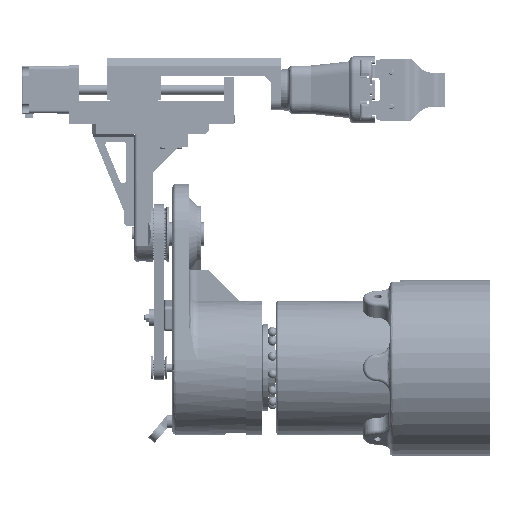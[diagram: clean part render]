
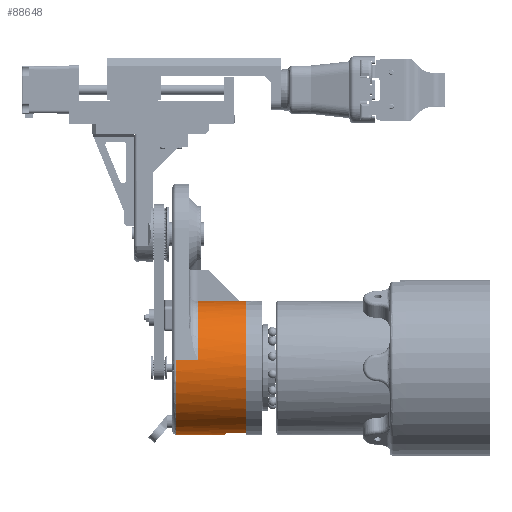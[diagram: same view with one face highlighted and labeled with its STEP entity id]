
A CAD part, left-side view. The second image highlights one B-rep face of the part: STEP entity #88648.
In plain terms, the highlighted cylindrical face has radius 40 mm (diameter 80 mm), a full revolution.
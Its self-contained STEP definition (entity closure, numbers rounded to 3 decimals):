
#1121=B_SPLINE_CURVE_WITH_KNOTS('',3,(#131976,#131977,#131978,#131979,#131980,
#131981,#131982,#131983,#131984,#131985),.UNSPECIFIED.,.F.,.F.,(4,2,2,2,
4),(-0.304,-0.228,-0.151,-0.075,
0.),.UNSPECIFIED.);
#1122=B_SPLINE_CURVE_WITH_KNOTS('',3,(#131989,#131990,#131991,#131992,#131993,
#131994,#131995,#131996,#131997,#131998),.UNSPECIFIED.,.F.,.F.,(4,2,2,2,
4),(0.608,0.683,0.758,0.835,
0.912),.UNSPECIFIED.);
#3991=CIRCLE('',#95145,40.);
#3992=CIRCLE('',#95146,40.);
#4001=CIRCLE('',#95160,40.);
#4002=CIRCLE('',#95161,40.);
#4003=CIRCLE('',#95162,40.);
#4004=CIRCLE('',#95163,40.);
#4005=CIRCLE('',#95164,40.);
#4006=CIRCLE('',#95165,40.);
#6431=CYLINDRICAL_SURFACE('',#95159,40.);
#8649=FACE_OUTER_BOUND('',#13763,.T.);
#13763=EDGE_LOOP('',(#62452,#62453,#62454,#62455,#62456,#62457,#62458,#62459,
#62460,#62461,#62462,#62463,#62464,#62465,#62466,#62467,#62468,#62469));
#20701=LINE('',#131946,#29180);
#20704=LINE('',#131959,#29183);
#20705=LINE('',#131963,#29184);
#20706=LINE('',#131967,#29185);
#20707=LINE('',#131970,#29186);
#20708=LINE('',#131974,#29187);
#20709=LINE('',#132000,#29188);
#29180=VECTOR('',#107400,10.);
#29183=VECTOR('',#107405,10.);
#29184=VECTOR('',#107408,10.);
#29185=VECTOR('',#107411,10.);
#29186=VECTOR('',#107414,40.);
#29187=VECTOR('',#107417,10.);
#29188=VECTOR('',#107420,10.);
#36942=VERTEX_POINT('',#131916);
#36943=VERTEX_POINT('',#131918);
#36944=VERTEX_POINT('',#131920);
#36952=VERTEX_POINT('',#131945);
#36955=VERTEX_POINT('',#131958);
#36956=VERTEX_POINT('',#131960);
#36957=VERTEX_POINT('',#131962);
#36958=VERTEX_POINT('',#131964);
#36959=VERTEX_POINT('',#131966);
#36960=VERTEX_POINT('',#131969);
#36961=VERTEX_POINT('',#131971);
#36962=VERTEX_POINT('',#131973);
#36963=VERTEX_POINT('',#131975);
#36964=VERTEX_POINT('',#131986);
#36965=VERTEX_POINT('',#131988);
#36966=VERTEX_POINT('',#131999);
#46408=EDGE_CURVE('',#36942,#36943,#3991,.T.);
#46409=EDGE_CURVE('',#36943,#36944,#3992,.T.);
#46422=EDGE_CURVE('',#36952,#36944,#20701,.T.);
#46426=EDGE_CURVE('',#36955,#36942,#20704,.T.);
#46427=EDGE_CURVE('',#36956,#36955,#4001,.T.);
#46428=EDGE_CURVE('',#36956,#36957,#20705,.T.);
#46429=EDGE_CURVE('',#36958,#36957,#4002,.T.);
#46430=EDGE_CURVE('',#36958,#36959,#20706,.T.);
#46431=EDGE_CURVE('',#36952,#36959,#4003,.T.);
#46432=EDGE_CURVE('',#36943,#36960,#20707,.T.);
#46433=EDGE_CURVE('',#36960,#36961,#4004,.T.);
#46434=EDGE_CURVE('',#36961,#36962,#20708,.T.);
#46435=EDGE_CURVE('',#36963,#36962,#1121,.T.);
#46436=EDGE_CURVE('',#36963,#36964,#4005,.T.);
#46437=EDGE_CURVE('',#36965,#36964,#1122,.T.);
#46438=EDGE_CURVE('',#36965,#36966,#20709,.T.);
#46439=EDGE_CURVE('',#36966,#36960,#4006,.T.);
#62452=ORIENTED_EDGE('',*,*,#46408,.F.);
#62453=ORIENTED_EDGE('',*,*,#46426,.F.);
#62454=ORIENTED_EDGE('',*,*,#46427,.F.);
#62455=ORIENTED_EDGE('',*,*,#46428,.T.);
#62456=ORIENTED_EDGE('',*,*,#46429,.F.);
#62457=ORIENTED_EDGE('',*,*,#46430,.T.);
#62458=ORIENTED_EDGE('',*,*,#46431,.F.);
#62459=ORIENTED_EDGE('',*,*,#46422,.T.);
#62460=ORIENTED_EDGE('',*,*,#46409,.F.);
#62461=ORIENTED_EDGE('',*,*,#46432,.T.);
#62462=ORIENTED_EDGE('',*,*,#46433,.T.);
#62463=ORIENTED_EDGE('',*,*,#46434,.T.);
#62464=ORIENTED_EDGE('',*,*,#46435,.F.);
#62465=ORIENTED_EDGE('',*,*,#46436,.T.);
#62466=ORIENTED_EDGE('',*,*,#46437,.F.);
#62467=ORIENTED_EDGE('',*,*,#46438,.T.);
#62468=ORIENTED_EDGE('',*,*,#46439,.T.);
#62469=ORIENTED_EDGE('',*,*,#46432,.F.);
#88648=ADVANCED_FACE('',(#8649),#6431,.T.);
#95145=AXIS2_PLACEMENT_3D('',#131919,#107368,#107369);
#95146=AXIS2_PLACEMENT_3D('',#131921,#107370,#107371);
#95159=AXIS2_PLACEMENT_3D('',#131957,#107403,#107404);
#95160=AXIS2_PLACEMENT_3D('',#131961,#107406,#107407);
#95161=AXIS2_PLACEMENT_3D('',#131965,#107409,#107410);
#95162=AXIS2_PLACEMENT_3D('',#131968,#107412,#107413);
#95163=AXIS2_PLACEMENT_3D('',#131972,#107415,#107416);
#95164=AXIS2_PLACEMENT_3D('',#131987,#107418,#107419);
#95165=AXIS2_PLACEMENT_3D('',#132001,#107421,#107422);
#107368=DIRECTION('center_axis',(0.,0.,
1.));
#107369=DIRECTION('ref_axis',(0.,-1.,0.));
#107370=DIRECTION('center_axis',(0.,0.,
1.));
#107371=DIRECTION('ref_axis',(0.,-1.,0.));
#107400=DIRECTION('',(0.,0.,1.));
#107403=DIRECTION('center_axis',(0.,0.,1.));
#107404=DIRECTION('ref_axis',(1.,0.,0.));
#107405=DIRECTION('',(0.,0.,1.));
#107406=DIRECTION('center_axis',(0.,0.,
1.));
#107407=DIRECTION('ref_axis',(-0.685,0.729,0.));
#107408=DIRECTION('',(0.,0.,-1.));
#107409=DIRECTION('center_axis',(0.,0.,
1.));
#107410=DIRECTION('ref_axis',(1.,0.,0.));
#107411=DIRECTION('',(0.,0.,1.));
#107412=DIRECTION('center_axis',(0.,0.,
1.));
#107413=DIRECTION('ref_axis',(0.685,0.729,0.));
#107414=DIRECTION('',(0.,0.,-1.));
#107415=DIRECTION('center_axis',(0.,0.,1.));
#107416=DIRECTION('ref_axis',(1.,0.,0.));
#107417=DIRECTION('',(0.,0.,1.));
#107418=DIRECTION('center_axis',(0.,0.,1.));
#107419=DIRECTION('ref_axis',(1.,0.,0.));
#107420=DIRECTION('',(0.,0.,-1.));
#107421=DIRECTION('center_axis',(0.,0.,1.));
#107422=DIRECTION('ref_axis',(1.,0.,0.));
#131916=CARTESIAN_POINT('',(-39.686,5.,48.7));
#131918=CARTESIAN_POINT('',(-40.,0.,48.7));
#131919=CARTESIAN_POINT('Origin',(0.,0.,48.7));
#131920=CARTESIAN_POINT('',(39.686,5.,48.7));
#131921=CARTESIAN_POINT('Origin',(0.,0.,48.7));
#131945=CARTESIAN_POINT('',(39.686,5.,35.7));
#131946=CARTESIAN_POINT('',(39.686,5.,40.7));
#131957=CARTESIAN_POINT('Origin',(0.,0.,0.));
#131958=CARTESIAN_POINT('',(-39.686,5.,35.7));
#131959=CARTESIAN_POINT('',(-39.686,5.,40.7));
#131960=CARTESIAN_POINT('',(-2.5,39.922,35.7));
#131961=CARTESIAN_POINT('Origin',(0.,0.,35.7));
#131962=CARTESIAN_POINT('',(-2.5,39.922,10.5));
#131963=CARTESIAN_POINT('',(-2.5,39.922,0.));
#131964=CARTESIAN_POINT('',(2.5,39.922,10.5));
#131965=CARTESIAN_POINT('Origin',(0.,0.,10.5));
#131966=CARTESIAN_POINT('',(2.5,39.922,35.7));
#131967=CARTESIAN_POINT('',(2.5,39.922,0.));
#131968=CARTESIAN_POINT('Origin',(0.,0.,35.7));
#131969=CARTESIAN_POINT('',(-40.,0.,7.));
#131970=CARTESIAN_POINT('',(-40.,0.,0.));
#131971=CARTESIAN_POINT('',(-9.,-38.974,7.));
#131972=CARTESIAN_POINT('Origin',(0.,0.,7.));
#131973=CARTESIAN_POINT('',(-9.,-38.974,17.));
#131974=CARTESIAN_POINT('',(-9.,-38.974,0.));
#131975=CARTESIAN_POINT('',(-7.,-39.383,19.));
#131976=CARTESIAN_POINT('Ctrl Pts',(-7.,-39.383,
19.));
#131977=CARTESIAN_POINT('Ctrl Pts',(-7.252,-39.338,
19.));
#131978=CARTESIAN_POINT('Ctrl Pts',(-7.521,-39.287,
18.949));
#131979=CARTESIAN_POINT('Ctrl Pts',(-8.016,-39.189,
18.744));
#131980=CARTESIAN_POINT('Ctrl Pts',(-8.241,-39.142,
18.588));
#131981=CARTESIAN_POINT('Ctrl Pts',(-8.595,-39.066,
18.232));
#131982=CARTESIAN_POINT('Ctrl Pts',(-8.747,-39.032,
18.009));
#131983=CARTESIAN_POINT('Ctrl Pts',(-8.95,-38.986,
17.518));
#131984=CARTESIAN_POINT('Ctrl Pts',(-9.,-38.974,
17.251));
#131985=CARTESIAN_POINT('Ctrl Pts',(-9.,-38.974,
17.));
#131986=CARTESIAN_POINT('',(7.,-39.383,19.));
#131987=CARTESIAN_POINT('Origin',(0.,0.,19.));
#131988=CARTESIAN_POINT('',(9.,-38.974,17.));
#131989=CARTESIAN_POINT('Ctrl Pts',(9.,-38.974,
17.));
#131990=CARTESIAN_POINT('Ctrl Pts',(9.,-38.974,
17.251));
#131991=CARTESIAN_POINT('Ctrl Pts',(8.95,-38.986,
17.518));
#131992=CARTESIAN_POINT('Ctrl Pts',(8.747,-39.032,
18.009));
#131993=CARTESIAN_POINT('Ctrl Pts',(8.595,-39.066,18.232));
#131994=CARTESIAN_POINT('Ctrl Pts',(8.241,-39.142,18.588));
#131995=CARTESIAN_POINT('Ctrl Pts',(8.016,-39.189,
18.744));
#131996=CARTESIAN_POINT('Ctrl Pts',(7.521,-39.287,
18.949));
#131997=CARTESIAN_POINT('Ctrl Pts',(7.252,-39.338,
19.));
#131998=CARTESIAN_POINT('Ctrl Pts',(7.,-39.383,
19.));
#131999=CARTESIAN_POINT('',(9.,-38.974,7.));
#132000=CARTESIAN_POINT('',(9.,-38.974,0.));
#132001=CARTESIAN_POINT('Origin',(0.,0.,7.));
